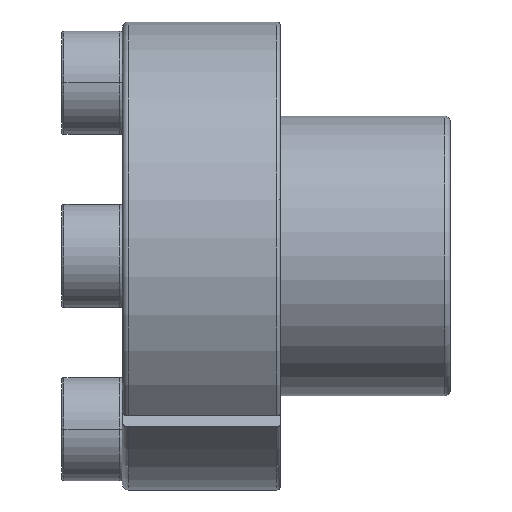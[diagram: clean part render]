
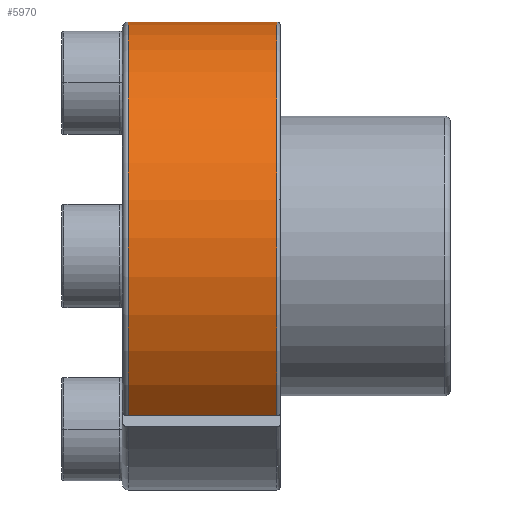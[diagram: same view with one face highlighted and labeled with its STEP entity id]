
A CAD part, front view. The second image highlights one B-rep face of the part: STEP entity #5970.
In plain terms, the highlighted cylindrical face has radius 19.25 mm (diameter 38.5 mm), a partial arc.
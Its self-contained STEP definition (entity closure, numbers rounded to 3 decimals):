
#2691 = LINE ( 'NONE', #2701, #2713 ) ;
#2701 = CARTESIAN_POINT ( 'NONE',  ( -13.216, 2.432, 19.25 ) ) ;
#2702 = DIRECTION ( 'NONE',  ( -1., 0., 0. ) ) ;
#2713 = VECTOR ( 'NONE', #2702, 1000. ) ;
#2716 = DIRECTION ( 'NONE',  ( -1., 0., 0. ) ) ;
#2722 = CARTESIAN_POINT ( 'NONE',  ( 0.984, -11.632, -13.144 ) ) ;
#2729 = AXIS2_PLACEMENT_3D ( 'NONE', #2809, #2779, #2759 ) ;
#2730 = CARTESIAN_POINT ( 'NONE',  ( -11.216, -11.632, -13.144 ) ) ;
#2731 = AXIS2_PLACEMENT_3D ( 'NONE', #2747, #2716, #2739 ) ;
#2736 = CIRCLE ( 'NONE', #2729, 19.25 ) ;
#2737 = CARTESIAN_POINT ( 'NONE',  ( 0.984, 2.432, 19.25 ) ) ;
#2739 = DIRECTION ( 'NONE',  ( 0., 0., 1. ) ) ;
#2747 = CARTESIAN_POINT ( 'NONE',  ( -13.216, 2.432, 0. ) ) ;
#2748 = CYLINDRICAL_SURFACE ( 'NONE', #2731, 19.25 ) ;
#2756 = FACE_OUTER_BOUND ( 'NONE', #5799, .T. ) ;
#2757 = VECTOR ( 'NONE', #2782, 1000. ) ;
#2759 = DIRECTION ( 'NONE',  ( 0., 0., 1. ) ) ;
#2761 = CARTESIAN_POINT ( 'NONE',  ( -11.216, 2.432, 19.25 ) ) ;
#2765 = CARTESIAN_POINT ( 'NONE',  ( -13.216, -11.632, -13.144 ) ) ;
#2779 = DIRECTION ( 'NONE',  ( -1., 0., 0. ) ) ;
#2782 = DIRECTION ( 'NONE',  ( -1., 0., 0. ) ) ;
#2796 = LINE ( 'NONE', #2765, #2757 ) ;
#2809 = CARTESIAN_POINT ( 'NONE',  ( 0.984, 2.432, 0. ) ) ;
#3763 = AXIS2_PLACEMENT_3D ( 'NONE', #3777, #3776, #3775 ) ;
#3775 = DIRECTION ( 'NONE',  ( 0., 0., 1. ) ) ;
#3776 = DIRECTION ( 'NONE',  ( -1., 0., 0. ) ) ;
#3777 = CARTESIAN_POINT ( 'NONE',  ( -11.216, 2.432, 0. ) ) ;
#3778 = CIRCLE ( 'NONE', #3763, 19.25 ) ;
#5781 = EDGE_CURVE ( 'NONE', #5932, #5954, #3778, .T. ) ;
#5799 = EDGE_LOOP ( 'NONE', ( #5972, #5975, #5974, #5926 ) ) ;
#5920 = EDGE_CURVE ( 'NONE', #5930, #5954, #2691, .T. ) ;
#5926 = ORIENTED_EDGE ( 'NONE', *, *, #5976, .F. ) ;
#5930 = VERTEX_POINT ( 'NONE', #2737 ) ;
#5932 = VERTEX_POINT ( 'NONE', #2730 ) ;
#5936 = VERTEX_POINT ( 'NONE', #2722 ) ;
#5954 = VERTEX_POINT ( 'NONE', #2761 ) ;
#5970 = ADVANCED_FACE ( 'NONE', ( #2756 ), #2748, .T. ) ;
#5972 = ORIENTED_EDGE ( 'NONE', *, *, #5973, .T. ) ;
#5973 = EDGE_CURVE ( 'NONE', #5936, #5930, #2736, .T. ) ;
#5974 = ORIENTED_EDGE ( 'NONE', *, *, #5781, .F. ) ;
#5975 = ORIENTED_EDGE ( 'NONE', *, *, #5920, .T. ) ;
#5976 = EDGE_CURVE ( 'NONE', #5936, #5932, #2796, .T. ) ;
